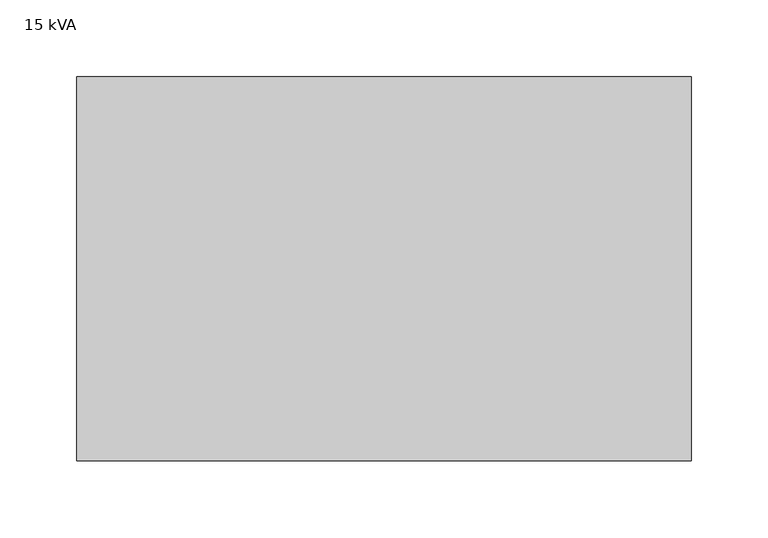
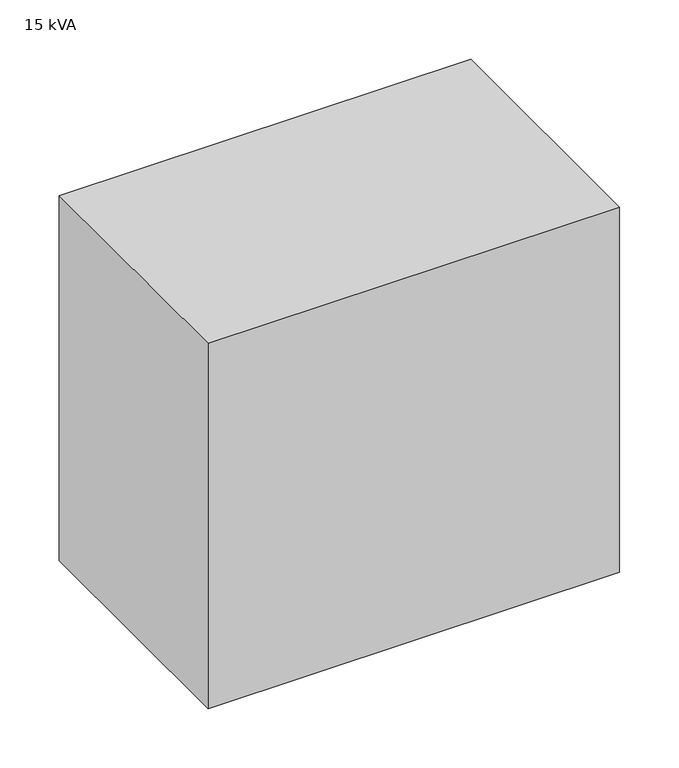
"""IFC4 building model written with IfcOpenShell, lengths in millimetres: proxy geometry, M_乾式變壓器 - 480-208Y120 - NEMA 類型 3R : 15 kVA."""

from ifc_helpers import new_model, si_unit, origin, origin_with_axes, place, context, project, spatial, polyline, outline, extrude, source, transform, mapped, element, save


def proxy_15_kva_9bd1221f(model_context):
    return source(origin(), model_context, "Body", "SweptSolid", [
        extrude(outline(polyline([(200.0, -125.0), (-200.0, -125.0), (-200.0, 125.0), (200.0, 125.0), (200.0, -125.0)])), origin_with_axes(), (0.0, 0.0, 1.0), 375.0),
    ])


if __name__ == "__main__":
    model = new_model("IFC4")
    model_context = context("Model", 3, world=origin())
    ifc_project = project(units=[si_unit("LENGTHUNIT", "METRE", prefix="MILLI")], contexts=[model_context])
    site = spatial("IfcSite", under=ifc_project)
    building = spatial("IfcBuilding", under=site)
    placement = place(None, origin())
    proxy_15_kva_shape = proxy_15_kva_9bd1221f(model_context)
    element("IfcBuildingElementProxy", 1, Name="M_乾式變壓器 - 480-208Y120 - NEMA 類型 3R : 15 kVA", ObjectType="M_乾式變壓器 - 480-208Y120 - NEMA 類型 3R : 15 kVA", at=placement, inside=building, context=model_context, shape_type="MappedRepresentation", body=[
        mapped(proxy_15_kva_shape, transform((0.0, 0.0, 0.0), x_axis=(1.0, 0.0, 0.0), y_axis=(0.0, 1.0, 0.0), z_axis=(0.0, 0.0, 1.0))),
    ])
    save(model, "model.ifc")
